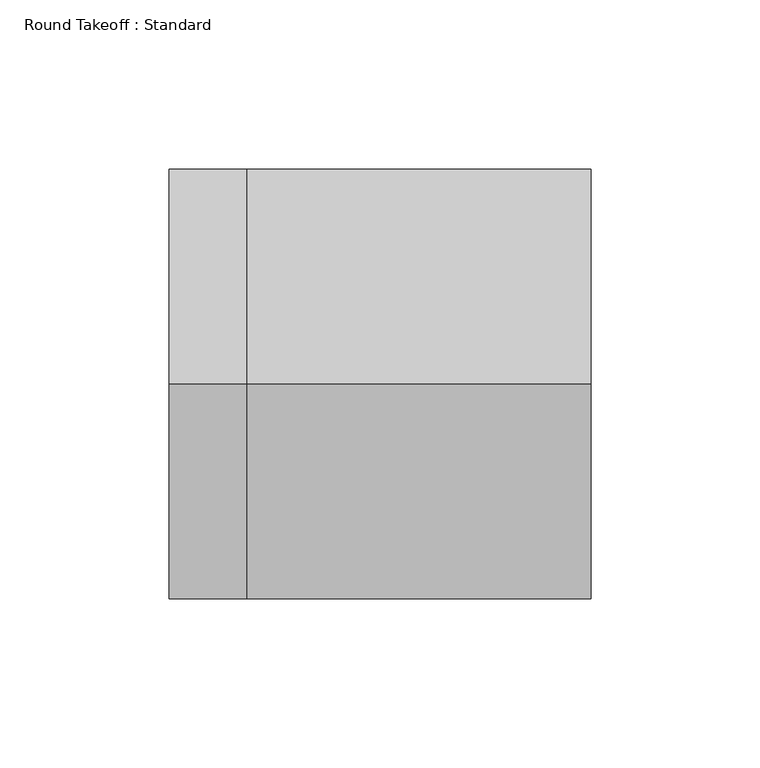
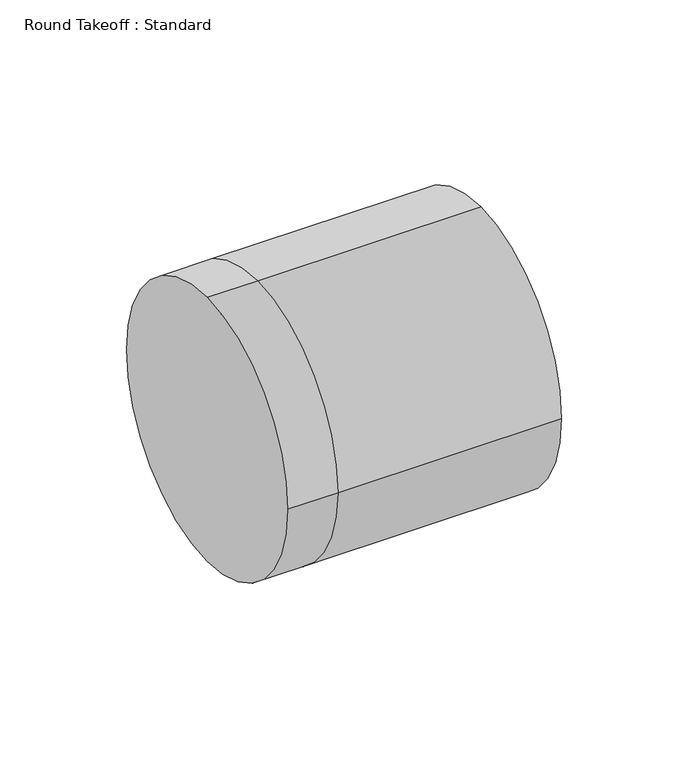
"""IFC4 building model written with IfcOpenShell, lengths in millimetres: duct fitting geometry, Round Takeoff : Standard."""

from ifc_helpers import new_model, si_unit, frame, origin, place, context, project, spatial, circle_curve, source, transform, mapped, element, save
from ifc_brep_helpers import plane_surface, cylinder_surface, advanced_brep


def round_takeoff_standard_17f2ae85(model_context):
    return source(origin(), model_context, "Body", "AdvancedBrep", [
        advanced_brep(
        [(101.6, 0.0, 63.5), (101.6, -63.5, 0.0), (101.6, 0.0, -63.5), (101.6, 63.5, 0.0), (0.0, 63.5, 0.0), (0.0, 0.0, 63.5), (0.0, 0.0, -63.5), (0.0, -63.5, 0.0), (-23.1107737, 0.0, 63.5), (-23.1107737, 63.5, 0.0), (-23.1107737, 0.0, -63.5), (-23.1107737, -63.5, 0.0)],
        [
            (0, 1, circle_curve(frame((101.6, 0.0, 0.0), z_axis=(1.0, 0.0, 0.0), x_axis=(0.0, 1.0, 0.0)), 63.5)),
            (1, 2, circle_curve(frame((101.6, 0.0, 0.0), z_axis=(1.0, 0.0, 0.0), x_axis=(0.0, 1.0, 0.0)), 63.5)),
            (2, 3, circle_curve(frame((101.6, 0.0, 0.0), z_axis=(1.0, 0.0, 0.0), x_axis=(0.0, 1.0, 0.0)), 63.5)),
            (3, 0, circle_curve(frame((101.6, 0.0, 0.0), z_axis=(1.0, 0.0, 0.0), x_axis=(0.0, 1.0, 0.0)), 63.5)),
            (3, 4),
            (4, 5, circle_curve(frame((0.0, 0.0, 0.0), z_axis=(1.0, 0.0, 0.0), x_axis=(0.0, 1.0, 0.0)), 63.5)),
            (5, 0),
            (2, 6),
            (6, 4, circle_curve(frame((0.0, 0.0, 0.0), z_axis=(1.0, 0.0, 0.0), x_axis=(0.0, 1.0, 0.0)), 63.5)),
            (1, 7),
            (7, 6, circle_curve(frame((0.0, 0.0, 0.0), z_axis=(1.0, 0.0, 0.0), x_axis=(0.0, 1.0, 0.0)), 63.5)),
            (5, 7, circle_curve(frame((0.0, 0.0, 0.0), z_axis=(1.0, 0.0, 0.0), x_axis=(0.0, 1.0, 0.0)), 63.5)),
            (8, 9, circle_curve(frame((-23.1107737, 0.0, 0.0), z_axis=(-1.0, 0.0, 0.0), x_axis=(0.0, 1.0, 0.0)), 63.5)),
            (9, 10, circle_curve(frame((-23.1107737, 0.0, 0.0), z_axis=(-1.0, 0.0, 0.0), x_axis=(0.0, 1.0, 0.0)), 63.5)),
            (10, 11, circle_curve(frame((-23.1107737, 0.0, 0.0), z_axis=(-1.0, 0.0, 0.0), x_axis=(0.0, 1.0, 0.0)), 63.5)),
            (11, 8, circle_curve(frame((-23.1107737, 0.0, 0.0), z_axis=(-1.0, 0.0, 0.0), x_axis=(0.0, 1.0, 0.0)), 63.5)),
            (8, 5),
            (4, 9),
            (6, 10),
            (7, 11),
        ],
        [
            plane_surface(frame((101.6, 0.0, 0.0), z_axis=(1.0, 0.0, 0.0), x_axis=(0.0, 0.0, 1.0))),
            cylinder_surface(frame((0.0, 0.0, 0.0), z_axis=(-1.0, 0.0, 0.0), x_axis=(0.0, 1.0, 0.0)), 63.5),
            plane_surface(frame((-23.1107737, 0.0, 0.0), z_axis=(-1.0, 0.0, 0.0), x_axis=(0.0, 0.0, 1.0))),
            cylinder_surface(frame((-23.1107737, 0.0, 0.0), z_axis=(-1.0, 0.0, 0.0), x_axis=(0.0, 1.0, 0.0)), 63.5),
        ],
        [
            (0, [[1, 2, 3, 4]]),
            (1, [[-4, 5, 6, 7]]),
            (1, [[-3, 8, 9, -5]]),
            (1, [[-2, 10, 11, -8]]),
            (1, [[-1, -7, 12, -10]]),
            (2, [[13, 14, 15, 16]]),
            (3, [[-13, 17, -6, 18]]),
            (3, [[-14, -18, -9, 19]]),
            (3, [[-15, -19, -11, 20]]),
            (3, [[-16, -20, -12, -17]]),
        ],
    ),
    ])


if __name__ == "__main__":
    model = new_model("IFC4")
    model_context = context("Model", 3, world=origin())
    ifc_project = project(units=[si_unit("LENGTHUNIT", "METRE", prefix="MILLI")], contexts=[model_context])
    site = spatial("IfcSite", under=ifc_project)
    building = spatial("IfcBuilding", under=site)
    placement = place(None, origin())
    round_takeoff_standard_shape = round_takeoff_standard_17f2ae85(model_context)
    element("IfcDuctFitting", 1, ObjectType="Round Takeoff : Standard", at=placement, inside=building, context=model_context, shape_type="MappedRepresentation", body=[
        mapped(round_takeoff_standard_shape, transform((0.0, 0.0, 0.0), x_axis=(1.0, 0.0, 0.0), y_axis=(0.0, 1.0, 0.0), z_axis=(0.0, 0.0, 1.0))),
    ])
    save(model, "model.ifc")
